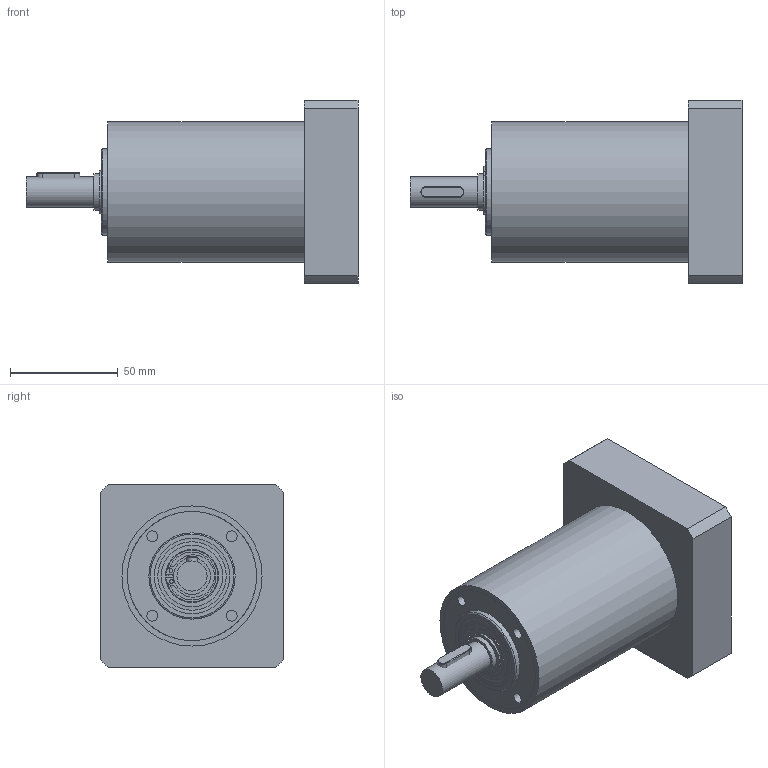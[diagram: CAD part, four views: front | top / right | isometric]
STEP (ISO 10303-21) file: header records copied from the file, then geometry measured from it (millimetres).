
FILE_DESCRIPTION(/* description */ (''),/* implementation_level */ '2;1');
FILE_NAME(/* name */ 'pnMP1651840423510_step214.stp',/* time_stamp */ '2022-05-06T14:34:04+02:00',/* author */ (''),/* organization */ (''),/* preprocessor_version */ 'ST-DEVELOPER v16.7',/* originating_system */ 'SIEMENS PLM Software NX 1884',/* authorisation */ '');
FILE_SCHEMA (('AUTOMOTIVE_DESIGN { 1 0 10303 214 0 1 1 1 }'));
Length unit declared in the file: millimetre
Products named in the file (1): pnMP1651840423510_M
Bounding box: 153.95 x 85 x 85 mm (x, y, z)
Volume: 455547.3 mm3; surface area: 82993.3 mm2
Topology: 14 solids, 14 shells, 184 faces, 367 edges, 232 vertices
Faces by surface type: plane 80, cylinder 67, cone 25, torus 12
Full cylindrical faces by diameter (mm): 1.7 x2, 4 x5, 5 x8, 7.22 x1, 7.5 x1, 9.52 x1, 9.75 x1, 12.5 x1, 14 x1, 15 x2, 16.2 x1, 17 x3, 22.2 x2, 23.5 x1, 24.5 x2, 32 x1, 32.9 x2, 35 x4, 35.5 x1, 40 x3, 50 x3, 60 x2, 65 x1, 73 x1
Entity records: 4505 total; most frequent: DIRECTION 802, CARTESIAN_POINT 794, ORIENTED_EDGE 552, AXIS2_PLACEMENT_3D 355, EDGE_LOOP 312, EDGE_CURVE 276, FACE_BOUND 239, VERTEX_POINT 219
